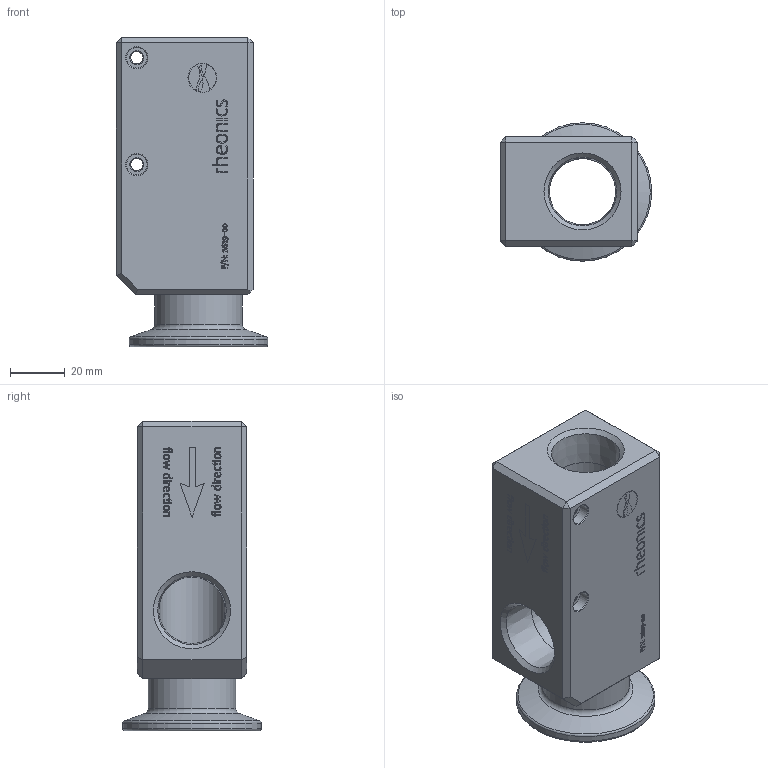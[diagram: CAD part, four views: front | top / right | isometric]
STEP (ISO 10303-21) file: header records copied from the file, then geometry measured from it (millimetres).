
FILE_DESCRIPTION(/* description */ ('Unknown'),/* implementation_level */ '2;1');
FILE_NAME(/* name */ 'IFC-15T-34N-SRV',/* time_stamp */ '2023-04-03T13:21:53-05:00',/* author */ ('Unknown'),/* organization */ ('Unknown'),/* preprocessor_version */ 'ST-DEVELOPER v16.7',/* originating_system */ 'Solid Edge',/* authorisation */ 'Unknown');
FILE_SCHEMA (('AUTOMOTIVE_DESIGN {1 0 10303 214 3 1 1}'));
Length unit declared in the file: millimetre
Products named in the file (1): IFC-15T-SRV_A
Bounding box: 55.25 x 50.5 x 113 mm (x, y, z)
Volume: 141342 mm3; surface area: 33579.8 mm2
Topology: 1 solids, 1 shells, 173 faces, 917 edges, 858 vertices
Faces by surface type: plane 141, cone 15, cylinder 11, torus 6
Full cylindrical faces by diameter (mm): 4.5 x2, 7.5 x4, 24.239 x2, 26 x1, 32 x1, 50.5 x1
Entity records: 11218 total; most frequent: CARTESIAN_POINT 3299, ORIENTED_EDGE 1738, EDGE_CURVE 869, VERTEX_POINT 843, DIRECTION 789, B_SPLINE_CURVE_WITH_KNOTS 471, LINE 355, VECTOR 355
